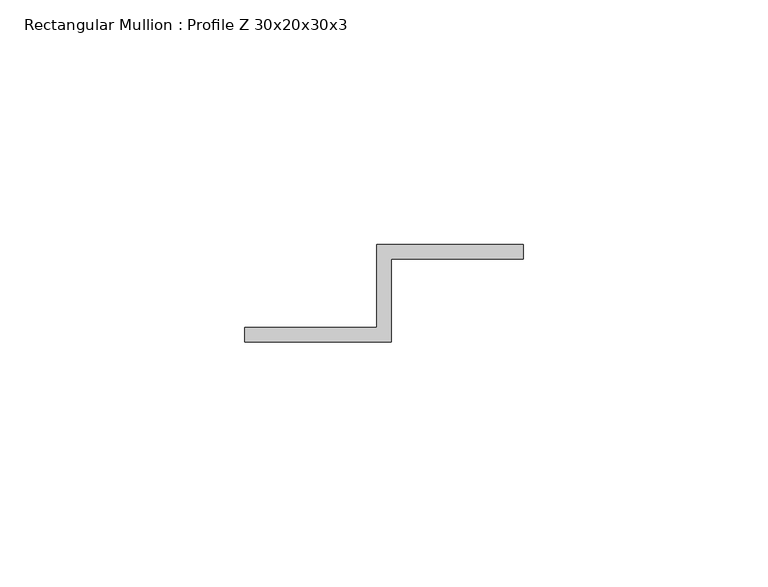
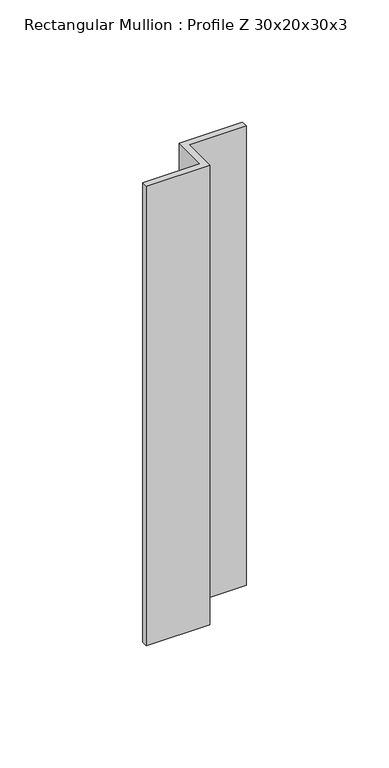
"""IFC4 building model written with IfcOpenShell, lengths in millimetres: member geometry, Rectangular Mullion : Profile Z 30x20x30x3."""

from ifc_helpers import new_model, si_unit, frame, origin, place, context, project, spatial, polyline, outline, extrude, source, transform, mapped, element, save


def rectangular_mullion_profile_z_30x20x30x3_3003ded6(model_context):
    return source(origin(), model_context, "Body", "SweptSolid", [
        extrude(outline(polyline([(-33.0, -29.5), (-3.0, -29.5), (-3.0, -32.5), (-30.0, -32.5), (-30.0, -49.5), (-60.0, -49.5), (-60.0, -46.5), (-33.0, -46.5), (-33.0, -29.5)])), frame((0.0, 0.0, -230.0), z_axis=(0.0, 0.0, 1.0), x_axis=(1.0, 0.0, 0.0)), (0.0, 0.0, 1.0), 230.0),
    ])


if __name__ == "__main__":
    model = new_model("IFC4")
    model_context = context("Model", 3, world=origin())
    ifc_project = project(units=[si_unit("LENGTHUNIT", "METRE", prefix="MILLI")], contexts=[model_context])
    site = spatial("IfcSite", under=ifc_project)
    building = spatial("IfcBuilding", under=site)
    placement = place(None, origin())
    rectangular_mullion_profile_z_30x20x30x3_shape = rectangular_mullion_profile_z_30x20x30x3_3003ded6(model_context)
    element("IfcMember", 1, ObjectType="Rectangular Mullion : Profile Z 30x20x30x3", at=placement, inside=building, context=model_context, shape_type="MappedRepresentation", body=[
        mapped(rectangular_mullion_profile_z_30x20x30x3_shape, transform((0.0, 0.0, 0.0), x_axis=(1.0, 0.0, 0.0), y_axis=(0.0, 1.0, 0.0), z_axis=(0.0, 0.0, 1.0))),
    ])
    save(model, "model.ifc")
